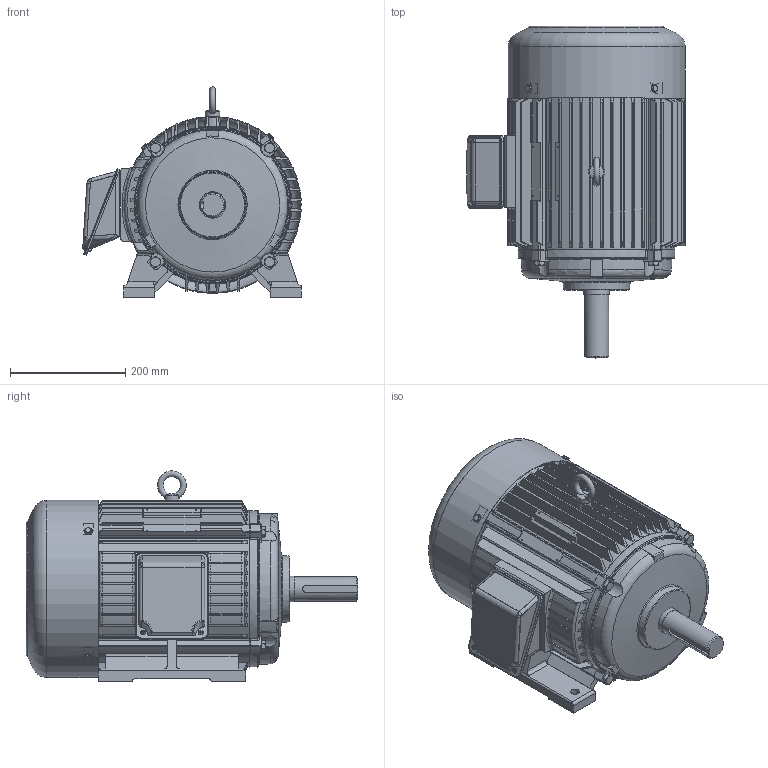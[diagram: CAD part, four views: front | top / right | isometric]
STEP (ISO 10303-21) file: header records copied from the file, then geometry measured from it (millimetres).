
FILE_DESCRIPTION(/* description */ ('Unknown'),/* implementation_level */ '2;1');
FILE_NAME(/* name */ '1-SMA-39402_외형도(260DIA)',/* time_stamp */ '2026-07-24T08:28:10+09:00',/* author */ ('Unknown'),/* organization */ ('Unknown'),/* preprocessor_version */ 'ST-DEVELOPER v16',/* originating_system */ 'DEX',/* authorisation */ $);
FILE_SCHEMA (('AUTOMOTIVE_DESIGN {1 0 10303 214 3 1 1}'));
Length unit declared in the file: millimetre
Products named in the file (15): 1-SMA-39402_寇屈档(260DI; 2-SMA-39391_FRAME(260DIA); 3-SMA-31033_¾Õºê¶óÄÏ(260DÅ¾|·Ï(; 4-SMA-31034_µÚºê¶óÄÏ(260DÅ¾|·Ï(; 5-SMA-39403_SHAFT(260DIA); 6-SMA-31244_FAN(205DIA); 7-SMA-31036_FAN COVER(260DIA); 8-SMA-33050_T-BOX(鼻)(205~260DIA); 9-SMA-33051_T-BOX(ж)(205~260DIA); 6309ZZ; 6308ZZ; I獐お M12x1.75x22; 菅斬 褊濠 M5x0.8x; 幫陝獐お M10x1.5x; 幫陝Ы楠雖 M6x1
Assembly tree (24 placements, depth 2):
  1-SMA-39402_寇屈档(260DI
    2-SMA-39391_FRAME(260DIA)
    3-SMA-31033_¾Õºê¶óÄÏ(260DÅ¾|·Ï(
    4-SMA-31034_µÚºê¶óÄÏ(260DÅ¾|·Ï(
    5-SMA-39403_SHAFT(260DIA)
    6-SMA-31244_FAN(205DIA)
    7-SMA-31036_FAN COVER(260DIA)
    8-SMA-33050_T-BOX(鼻)(205~260DIA)
    9-SMA-33051_T-BOX(ж)(205~260DIA)
    6309ZZ
    6308ZZ
    I獐お M12x1.75x22
    菅斬 褊濠 M5x0.8x  x2
    幫陝獐お M10x1.5x  x7
    幫陝Ы楠雖 M6x1  x4
Bounding box: 379.39 x 575.99 x 365 mm (x, y, z)
Volume: 6104193.6 mm3; surface area: 2071301.6 mm2
Topology: 47 solids, 47 shells, 2276 faces, 5916 edges, 3733 vertices
Faces by surface type: plane 735, cylinder 630, cone 461, torus 224, bspline 190, sphere 36
Full cylindrical faces by diameter (mm): 2.2 x4, 4.134 x2, 4.917 x6, 5 x2, 6 x10, 7 x2, 8.376 x17, 10 x20, 10.106 x1, 12 x6, 14 x4, 15 x4, 25 x2, 25.3 x1, 35 x1, 39.8 x1, 40 x3, 40.8 x1, 42 x1, 44 x2, 44.8 x1, 45 x2, 45.8 x1, 46.1 x1, 49 x1, 53 x1, 54.286 x2, 54.686 x2, 60.714 x2, 61.114 x2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
Entity records: 94534 total; most frequent: CARTESIAN_POINT 41252, ORIENTED_EDGE 10234, DIRECTION 9453, EDGE_CURVE 5117, AXIS2_PLACEMENT_3D 3878, VERTEX_POINT 3366, FACE_BOUND 2455, EDGE_LOOP 2426
